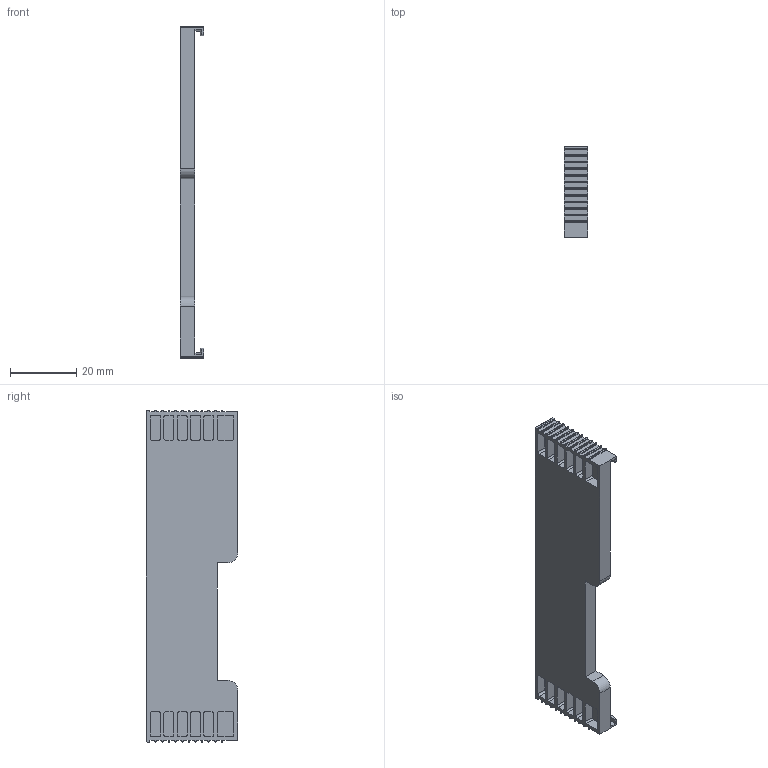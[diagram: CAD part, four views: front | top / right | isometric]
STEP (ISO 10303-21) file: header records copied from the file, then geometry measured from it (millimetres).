
FILE_DESCRIPTION((''),'2;1');
FILE_NAME('PRT0003','2023-02-14T',('Administrator'),(''),'PRO/ENGINEER BY PARAMETRIC TECHNOLOGY CORPORATION, 2015280','PRO/ENGINEER BY PARAMETRIC TECHNOLOGY CORPORATION, 2015280','');
FILE_SCHEMA(('CONFIG_CONTROL_DESIGN'));
Length unit declared in the file: millimetre
Products named in the file (1): PRT0003
Bounding box: 7.2 x 27.5 x 100 mm (x, y, z)
Volume: 6635.5 mm3; surface area: 10515.9 mm2
Topology: 1 solids, 1 shells, 533 faces, 1541 edges, 1050 vertices
Faces by surface type: plane 330, cylinder 203
Entity records: 17759 total; most frequent: CARTESIAN_POINT 3124, DIRECTION 3089, ORIENTED_EDGE 3082, EDGE_CURVE 1541, VECTOR 1059, LINE 1059, VERTEX_POINT 1050, AXIS2_PLACEMENT_3D 1015
